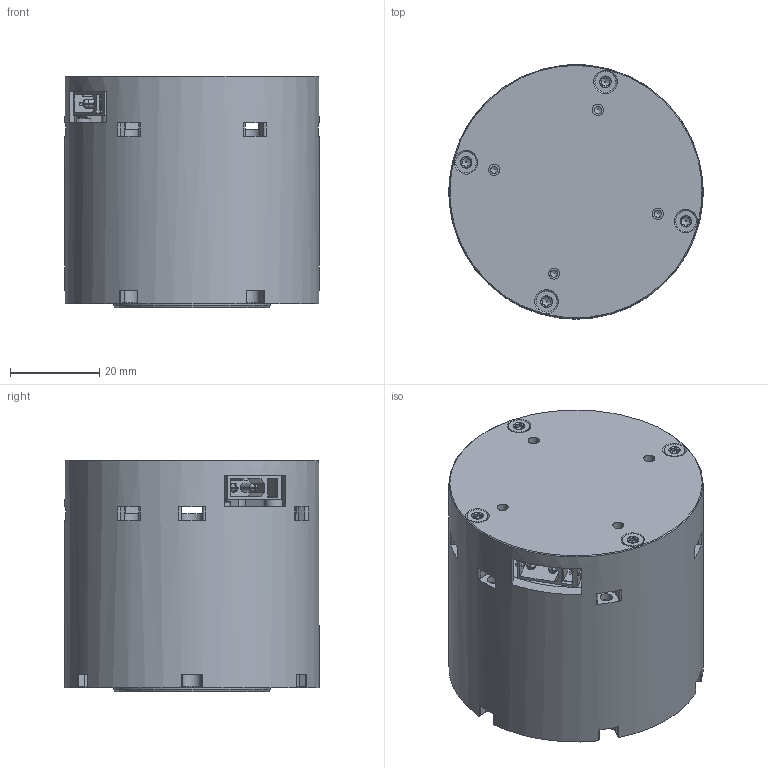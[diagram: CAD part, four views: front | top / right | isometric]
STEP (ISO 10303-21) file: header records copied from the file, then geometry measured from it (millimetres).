
FILE_DESCRIPTION(/* description */ ('STEP AP242 Edition 2','CAx-IF Rec.Pracs.---Representation and Presentation of Product Manufacturing Information (PMI)---4.0---2014-10-13','CAx-IF Rec.Pracs.---3D Tessellated Geometry---0.4---2014-09-14','2;1','CAx-IF Rec.Pracs.---User Defined Attributes---1.5---2016-08-15'),/* implementation_level */ '2;1');
FILE_NAME(/* name */ 'Assy_ForMFG - L_Forearm_Yaw_RS00',/* time_stamp */ '2026-05-15T19:56:50Z',/* author */ (''),/* organization */ (''),/* preprocessor_version */ 'ST-DEVELOPER v20',/* originating_system */ 'ONSHAPE BY PTC INC, 1.215',/* authorisation */ ' ');
FILE_SCHEMA (('AP242_MANAGED_MODEL_BASED_3D_ENGINEERING_MIM_LF { 1 0 10303 442 3 1 4 }'));
Products named in the file (1): L_Forearm_Yaw_RS00
Bounding box: 56.98 x 57 x 52 mm (x, y, z)
Surface area: 37917.2 mm2 (no closed solid volume)
Topology: 0 solids, 1 shells, 1451 faces, 3995 edges, 2623 vertices
Faces by surface type: plane 689, cylinder 543, cone 130, bspline 45, sphere 40, torus 4
Full cylindrical faces by diameter (mm): 0.188 x2, 1.6 x14, 2.05 x29, 2.4 x6, 2.5 x16, 2.7 x7, 2.9 x4, 3 x11, 3.9 x4, 4 x7, 4.7 x4, 9 x2, 9.1 x1, 9.5 x1, 11 x1, 12 x1, 14 x1, 35 x2, 42 x1, 44 x1, 48 x2, 57 x1
Entity records: 78089 total; most frequent: CARTESIAN_POINT 43029, DIRECTION 7254, ORIENTED_EDGE 7184, EDGE_CURVE 3592, AXIS2_PLACEMENT_3D 2691, VERTEX_POINT 2451, LINE 1872, VECTOR 1872
